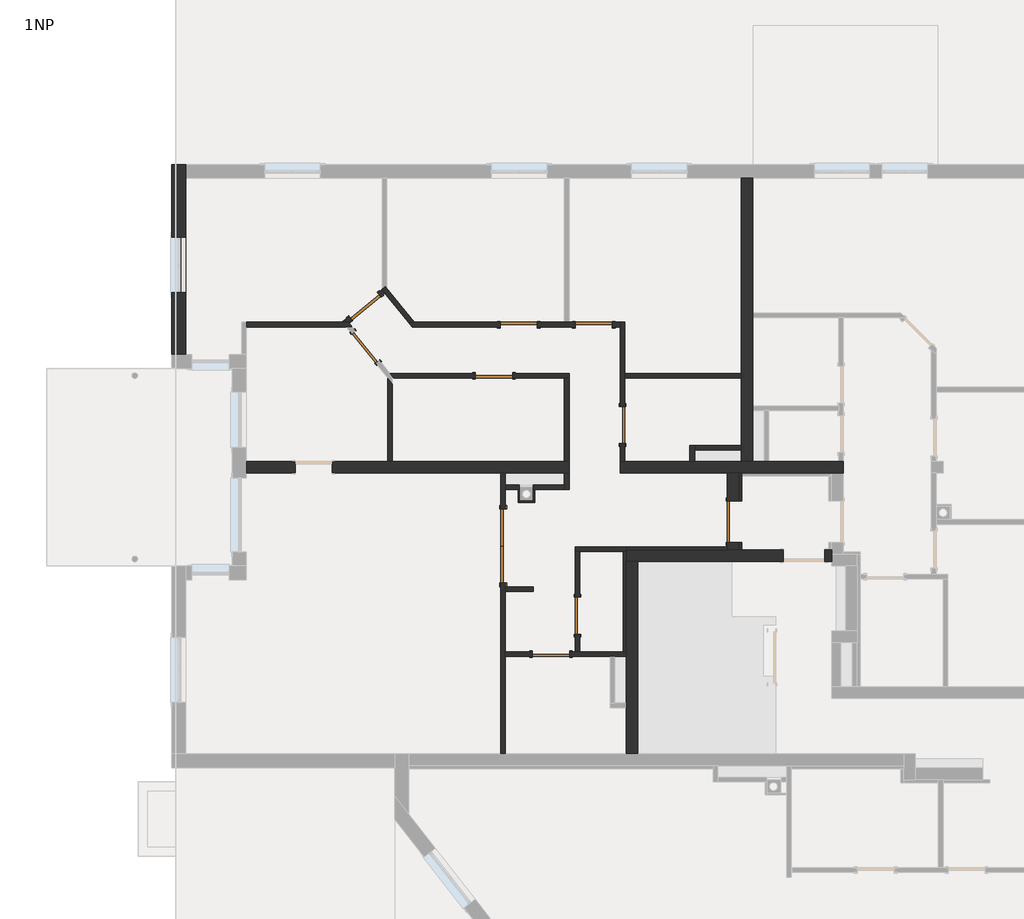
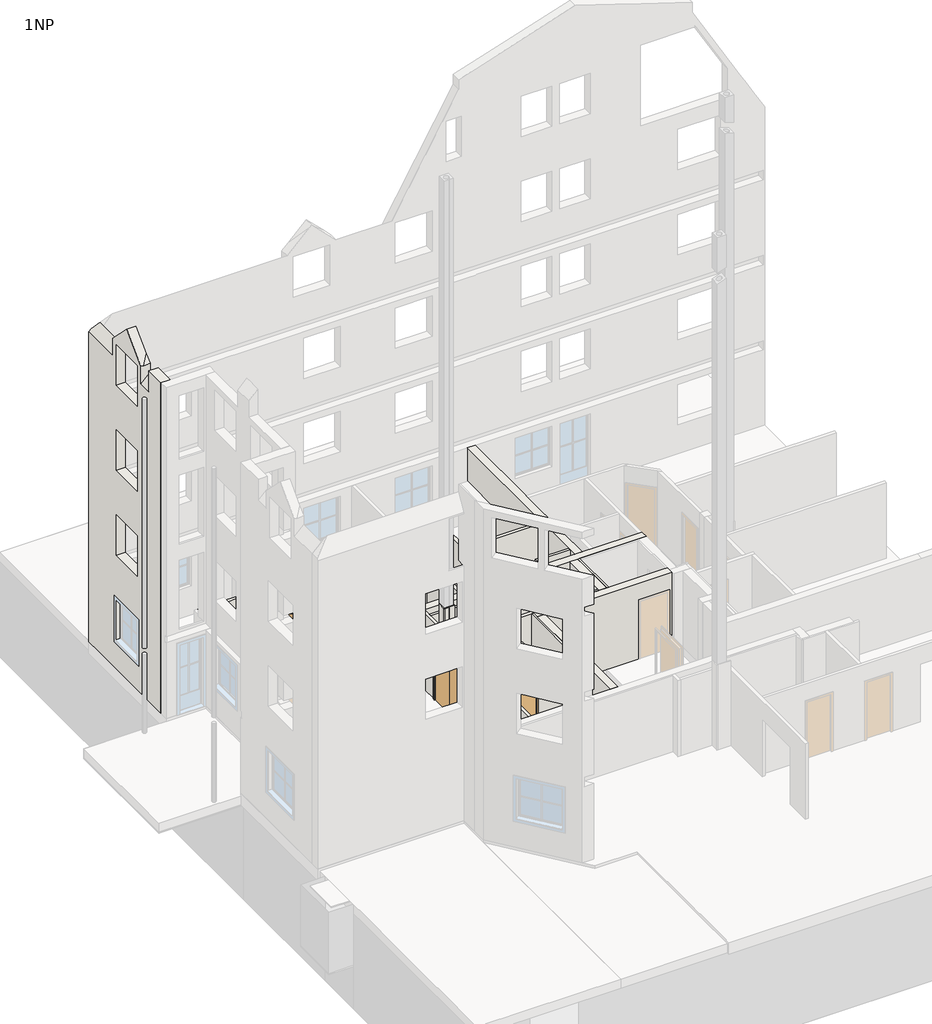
# One storey, part 4 of 7: 32 walls, 10 doors.
"""IFC4 building model written with IfcOpenShell, lengths in millimetres."""

import ifcopenshell
import ifcopenshell.guid

model = None  # the IFC model being written
_history = None  # IfcOwnerHistory: only IFC2X3 demands one
_inside = {}  # id of a spatial element -> (the spatial element, [elements in it])
_under = {}  # id of a project, library or spatial element -> (it, [spatial elements below it])
_declared = {}  # id of a project -> (the project, [libraries it declares])
_typed = {}  # id of a type object -> (the type object, [elements of that type])
_made_of = {}  # id of a material, layer set ... -> (it, [elements and type objects made of it])


def new_model(schema):
    """Start an empty IFC model of exactly this schema.

    Asked for "IFC4X3", IfcOpenShell would pick the latest addendum, in which some entities
    have other attributes; the version numbers below select the first issue.
    IFC2X3 requires an IfcOwnerHistory on every rooted entity: one is made here for all.
    """
    global model, _history
    if schema == "IFC4X3":
        model = ifcopenshell.file(schema_version=(4, 3, 0, 0))
    else:
        model = ifcopenshell.file(schema=schema)
    _inside.clear()
    _under.clear()
    _declared.clear()
    _typed.clear()
    _made_of.clear()
    _history = None
    if model.schema == "IFC2X3":
        org = make("IfcOrganization", Name="unknown")
        user = make(
            "IfcPersonAndOrganization",
            ThePerson=make("IfcPerson", FamilyName="unknown"),
            TheOrganization=org,
        )
        app = make(
            "IfcApplication",
            ApplicationDeveloper=org,
            Version="unknown",
            ApplicationFullName="unknown",
            ApplicationIdentifier="unknown",
        )
        _history = make(
            "IfcOwnerHistory",
            OwningUser=user,
            OwningApplication=app,
            ChangeAction="ADDED",
            CreationDate=0,
        )
    return model


def make(cls, **values):
    """One entity of the class cls with the attributes given. An attribute that is None is left unset."""
    return model.create_entity(
        cls, **{name: value for name, value in values.items() if value is not None}
    )


def rooted(cls, **values):
    """An entity with a GlobalId (a new one), such as an element, a storey or a relation."""
    return make(cls, GlobalId=ifcopenshell.guid.new(), OwnerHistory=_history, **values)


def si_unit(unit_type, name, prefix=None):
    """IfcSIUnit, for example si_unit("LENGTHUNIT", "METRE", prefix="MILLI")."""
    return make("IfcSIUnit", UnitType=unit_type, Prefix=prefix, Name=name)


def assignment(units):
    """IfcUnitAssignment: the units of a project."""
    return None if units is None else make("IfcUnitAssignment", Units=units)


def point(xyz):
    """IfcCartesianPoint."""
    return None if xyz is None else make("IfcCartesianPoint", Coordinates=xyz)


def direction(xyz):
    """IfcDirection."""
    return None if xyz is None else make("IfcDirection", DirectionRatios=xyz)


def frame(location, z_axis=None, x_axis=None):
    """IfcAxis2Placement3D, a coordinate frame: its origin and axes. An axis left out is left unset."""
    return make(
        "IfcAxis2Placement3D",
        Location=point(location),
        Axis=direction(z_axis),
        RefDirection=direction(x_axis),
    )


def origin():
    """The frame at (0, 0, 0) with its axes left unset."""
    return frame((0.0, 0.0, 0.0))


def origin_with_axes():
    """The frame at (0, 0, 0) with the z axis (0, 0, 1) and the x axis (1, 0, 0) written out."""
    return frame((0.0, 0.0, 0.0), z_axis=(0.0, 0.0, 1.0), x_axis=(1.0, 0.0, 0.0))


def place(relative_to, where):
    """IfcLocalPlacement: puts the frame where relative to a parent placement (None: the world)."""
    return make(
        "IfcLocalPlacement", PlacementRelTo=relative_to, RelativePlacement=where
    )


def context(
    kind, dimensions, precision=None, world=None, true_north=None, identifier=None
):
    """IfcGeometricRepresentationContext, for example the 3D "Model" context."""
    return make(
        "IfcGeometricRepresentationContext",
        ContextIdentifier=identifier,
        ContextType=kind,
        CoordinateSpaceDimension=dimensions,
        Precision=precision,
        WorldCoordinateSystem=world,
        TrueNorth=true_north,
    )


def project(units=None, contexts=None):
    """IfcProject with its units and contexts."""
    return rooted(
        "IfcProject",
        Name="project",
        RepresentationContexts=contexts,
        UnitsInContext=assignment(units),
    )


def spatial(cls, under=None, at=None, **own):
    """A site, building, storey or space (cls), placed at a placement, below another one or the project."""
    s = rooted(cls, ObjectPlacement=at, **own)
    if under is not None:
        _under.setdefault(under.id(), (under, []))[1].append(s)
    return s


def polyline(points):
    """IfcPolyline through the points."""
    return make("IfcPolyline", Points=[point(p) for p in points])


def outline(outer, holes=None, kind="AREA"):
    """IfcArbitraryClosedProfileDef: a profile drawn as a closed curve; with holes, ...WithVoids."""
    if holes is None:
        return make("IfcArbitraryClosedProfileDef", ProfileType=kind, OuterCurve=outer)
    return make(
        "IfcArbitraryProfileDefWithVoids",
        ProfileType=kind,
        OuterCurve=outer,
        InnerCurves=holes,
    )


def extrude(swept, where, along, depth):
    """IfcExtrudedAreaSolid: the profile swept, set in the frame where, extruded along a direction by depth."""
    return make(
        "IfcExtrudedAreaSolid",
        SweptArea=swept,
        Position=where,
        ExtrudedDirection=direction(along),
        Depth=depth,
    )


def faces_of(points, faces, orient=None, outer=None):
    """IfcFace entities. A face is a list of loops; a loop is a list of indices into points, from 0.

    orient and outer hold one flag for each loop. By default every Orientation is true, the
    first loop of a face is its IfcFaceOuterBound and the others are IfcFaceBound.
    """
    made = []
    for i, loops in enumerate(faces):
        bounds = []
        for j, loop in enumerate(loops):
            is_outer = j == 0 if outer is None else outer[i][j]
            bounds.append(
                make(
                    "IfcFaceOuterBound" if is_outer else "IfcFaceBound",
                    Bound=make("IfcPolyLoop", Polygon=[points[k] for k in loop]),
                    Orientation=True if orient is None else orient[i][j],
                )
            )
        made.append(make("IfcFace", Bounds=bounds))
    return made


def faceted_brep(points, faces, orient=None, outer=None, voids=None):
    """IfcFacetedBrep: a solid bounded by flat faces; with voids (closed shells), ...WithVoids."""
    shared = [point(p) for p in points]
    hull = make("IfcClosedShell", CfsFaces=faces_of(shared, faces, orient, outer))
    if voids is None:
        return make("IfcFacetedBrep", Outer=hull)
    return make(
        "IfcFacetedBrepWithVoids",
        Outer=hull,
        Voids=[
            make(cls, CfsFaces=faces_of(shared, fs, o, b)) for cls, fs, o, b in voids
        ],
    )


def shape(context_of_items, identifier, shape_type, items):
    """IfcShapeRepresentation: the items that make up one representation, for example the "Body"."""
    return make(
        "IfcShapeRepresentation",
        ContextOfItems=context_of_items,
        RepresentationIdentifier=identifier,
        RepresentationType=shape_type,
        Items=items,
    )


def source(mapping_origin, context_of_items, identifier, shape_type, items):
    """IfcRepresentationMap: a shape defined once, which mapped items show again and again."""
    return make(
        "IfcRepresentationMap",
        MappingOrigin=mapping_origin,
        MappedRepresentation=shape(context_of_items, identifier, shape_type, items),
    )


def transform(
    local_origin,
    x_axis=None,
    y_axis=None,
    z_axis=None,
    scale=None,
    scale2=None,
    scale3=None,
    uniform=True,
):
    """IfcCartesianTransformationOperator3D, or its non-uniform kind. x_axis, y_axis, z_axis: its Axis1, 2, 3."""
    if uniform:
        return make(
            "IfcCartesianTransformationOperator3D",
            Axis1=direction(x_axis),
            Axis2=direction(y_axis),
            LocalOrigin=point(local_origin),
            Scale=scale,
            Axis3=direction(z_axis),
        )
    return make(
        "IfcCartesianTransformationOperator3DnonUniform",
        Axis1=direction(x_axis),
        Axis2=direction(y_axis),
        LocalOrigin=point(local_origin),
        Scale=scale,
        Axis3=direction(z_axis),
        Scale2=scale2,
        Scale3=scale3,
    )


def mapped(mapping_source, mapping_target):
    """IfcMappedItem: shows the shape of a source again, moved by a transform."""
    return make(
        "IfcMappedItem", MappingSource=mapping_source, MappingTarget=mapping_target
    )


def made_of(thing, what):
    """Note that an element or type object is made of a material, layer set ...; save() writes the relation."""
    if what is not None:
        _made_of.setdefault(what.id(), (what, []))[1].append(thing)
    return thing


def element(
    cls,
    number,
    at=None,
    inside=None,
    cuts=None,
    type_object=None,
    material=None,
    context=None,
    identifier="Body",
    shape_type=None,
    held_by="IfcProductDefinitionShape",
    body=None,
    shapes=None,
    **own,
):
    """One element of the class cls, such as IfcWall. Its Tag is "e" and its number.

    at: its placement. inside: the storey or other place that contains it. cuts: it is an
    opening in that element (IfcRelVoidsElement). A single representation is given by context,
    identifier, shape_type and body (its items); several are given by shapes. held_by: the class
    of the entity that holds the representations. save() writes the other relations.
    """
    e = rooted(cls, Tag="e%d" % number, ObjectPlacement=at, **own)
    if body is not None:
        shapes = [shape(context, identifier, shape_type, body)]
    if shapes is not None:
        e.Representation = make(held_by, Representations=shapes)
    if inside is not None:
        _inside.setdefault(inside.id(), (inside, []))[1].append(e)
    if cuts is not None:
        rooted(
            "IfcRelVoidsElement", RelatingBuildingElement=cuts, RelatedOpeningElement=e
        )
    if type_object is not None:
        _typed.setdefault(type_object.id(), (type_object, []))[1].append(e)
    return made_of(e, material)


def aggregate(whole, parts):
    """IfcRelAggregates: a whole, such as a stair, and the parts it consists of."""
    return rooted("IfcRelAggregates", RelatingObject=whole, RelatedObjects=parts)


def save(model, path):
    """Write the relations noted so far, then the file.

    IfcRelAggregates (storeys below a building ...), IfcRelContainedInSpatialStructure (elements
    in a storey), IfcRelDefinesByType, IfcRelAssociatesMaterial and IfcRelDeclares: one each for
    every whole, place, type object, material and project.
    """
    for whole, parts in _under.values():
        aggregate(whole, parts)
    for where, things in _inside.values():
        rooted(
            "IfcRelContainedInSpatialStructure",
            RelatedElements=things,
            RelatingStructure=where,
        )
    for kind, things in _typed.values():
        rooted("IfcRelDefinesByType", RelatedObjects=things, RelatingType=kind)
    for what, things in _made_of.values():
        rooted("IfcRelAssociatesMaterial", RelatedObjects=things, RelatingMaterial=what)
    for by, libraries in _declared.values():
        rooted("IfcRelDeclares", RelatingContext=by, RelatedDefinitions=libraries)
    model.write(path)


def door_1600_x_2000mm_ba48827e(model_context):
    return source(origin(), model_context, "Body", "SweptSolid", [
        extrude(outline(polyline([(0.0, 50.0), (800.0, 50.0), (800.0, -1.0), (0.0, -1.0), (0.0, 50.0)])), origin_with_axes(), (0.0, 0.0, 1.0), 2000.0),
        extrude(outline(polyline([(-800.0, 50.0), (0.0, 50.0), (0.0, -1.0), (-800.0, -1.0), (-800.0, 50.0)])), origin_with_axes(), (0.0, 0.0, 1.0), 2000.0),
        extrude(outline(polyline([(2000.0, -800.0), (2000.0, 800.0), (0.0, 800.0), (0.0, 876.0), (2076.0, 876.0), (2076.0, -876.0), (0.0, -876.0), (0.0, -800.0), (2000.0, -800.0)])), frame((0.0, -75.0, 0.0), z_axis=(0.0, 1.0, 0.0), x_axis=(0.0, 0.0, 1.0)), (0.0, 0.0, 1.0), 25.0),
        extrude(outline(polyline([(2000.0, -800.0), (2000.0, 800.0), (0.0, 800.0), (0.0, 876.0), (2076.0, 876.0), (2076.0, -876.0), (0.0, -876.0), (0.0, -800.0), (2000.0, -800.0)])), frame((0.0, 50.0, 0.0), z_axis=(0.0, 1.0, 0.0), x_axis=(0.0, 0.0, 1.0)), (0.0, 0.0, 1.0), 25.0),
    ])


def sd_800x2000_6a16926d(model_context):
    return source(origin(), model_context, "Body", "SweptSolid", [
        extrude(outline(polyline([(2060.0, -460.0), (0.0, -460.0), (0.0, -400.0), (2000.0, -400.0), (2000.0, 400.0), (0.0, 400.0), (0.0, 460.0), (2060.0, 460.0), (2060.0, -460.0)])), frame((0.0, -70.0, 0.0), z_axis=(0.0, 1.0, 0.0), x_axis=(0.0, 0.0, 1.0)), (0.0, 0.0, 1.0), 20.0),
        extrude(outline(polyline([(2060.0, 460.0), (2060.0, -460.0), (0.0, -460.0), (0.0, -400.0), (2000.0, -400.0), (2000.0, 400.0), (0.0, 400.0), (0.0, 460.0), (2060.0, 460.0)])), frame((0.0, 50.0, 0.0), z_axis=(0.0, 1.0, 0.0), x_axis=(0.0, 0.0, 1.0)), (0.0, 0.0, 1.0), 20.0),
        extrude(outline(polyline([(400.0, 0.0), (400.0, -50.0), (-400.0, -50.0), (-400.0, 0.0), (400.0, 0.0)])), origin_with_axes(), (0.0, 0.0, 1.0), 2000.0),
    ])


def sd_800x2000_80f4ff25(model_context):
    return source(origin(), model_context, "Body", "SweptSolid", [
        extrude(outline(polyline([(2060.0, -460.0), (0.0, -460.0), (0.0, -400.0), (2000.0, -400.0), (2000.0, 400.0), (0.0, 400.0), (0.0, 460.0), (2060.0, 460.0), (2060.0, -460.0)])), frame((0.0, 50.0, 0.0), z_axis=(0.0, 1.0, 0.0), x_axis=(0.0, 0.0, 1.0)), (0.0, 0.0, 1.0), 20.0),
        extrude(outline(polyline([(2060.0, 460.0), (2060.0, -460.0), (0.0, -460.0), (0.0, -400.0), (2000.0, -400.0), (2000.0, 400.0), (0.0, 400.0), (0.0, 460.0), (2060.0, 460.0)])), frame((0.0, -70.0, 0.0), z_axis=(0.0, 1.0, 0.0), x_axis=(0.0, 0.0, 1.0)), (0.0, 0.0, 1.0), 20.0),
        extrude(outline(polyline([(400.0, 0.0), (-400.0, 0.0), (-400.0, 50.0), (400.0, 50.0), (400.0, 0.0)])), origin_with_axes(), (0.0, 0.0, 1.0), 2000.0),
    ])


def sd_900x2000_4224ae2a(model_context):
    return source(origin(), model_context, "Body", "SweptSolid", [
        extrude(outline(polyline([(2060.0, -510.0), (0.0, -510.0), (0.0, -450.0), (2000.0, -450.0), (2000.0, 450.0), (0.0, 450.0), (0.0, 510.0), (2060.0, 510.0), (2060.0, -510.0)])), frame((0.0, 125.0, 0.0), z_axis=(0.0, 1.0, 0.0), x_axis=(0.0, 0.0, 1.0)), (0.0, 0.0, 1.0), 20.0),
        extrude(outline(polyline([(2060.0, 510.0), (2060.0, -510.0), (0.0, -510.0), (0.0, -450.0), (2000.0, -450.0), (2000.0, 450.0), (0.0, 450.0), (0.0, 510.0), (2060.0, 510.0)])), frame((0.0, -145.0, 0.0), z_axis=(0.0, 1.0, 0.0), x_axis=(0.0, 0.0, 1.0)), (0.0, 0.0, 1.0), 20.0),
        extrude(outline(polyline([(450.0, 75.0), (-450.0, 75.0), (-450.0, 125.0), (450.0, 125.0), (450.0, 75.0)])), origin_with_axes(), (0.0, 0.0, 1.0), 2000.0),
    ])


model = new_model("IFC4")

# Units and contexts
model_context = context("Model", 3, world=origin())
ifc_project = project(units=[si_unit("LENGTHUNIT", "METRE", prefix="MILLI")], contexts=[model_context])

# Site, building, storey
site = spatial("IfcSite", under=ifc_project)
building = spatial("IfcBuilding", under=site)
storey = spatial("IfcBuildingStorey", under=building, Name="1NP", Elevation=0.0)

# Doors
placement = place(None, origin())
door_1600_x_2000mm_shape = door_1600_x_2000mm_ba48827e(model_context)
element("IfcDoor", 1, ObjectType="DvoukridleOtevirave : 1600 x 2000mm", at=placement, inside=storey, context=model_context, shape_type="MappedRepresentation", body=[
    mapped(door_1600_x_2000mm_shape, transform((-5507.1962165, 2648.5597712, 0.0), x_axis=(0.0, 1.0, 0.0), y_axis=(-1.0, 0.0, 0.0), z_axis=(0.0, 0.0, 1.0))),
])
sd_800x2000_shape = sd_800x2000_6a16926d(model_context)
element("IfcDoor", 2, ObjectType="JednokridlePlne : SD 800x2000", at=placement, inside=storey, context=model_context, shape_type="MappedRepresentation", body=[
    mapped(sd_800x2000_shape, transform((-5174.2767874, 7417.6290541, 0.0), x_axis=(-1.0, 0.0, 0.0), y_axis=(0.0, -1.0, 0.0), z_axis=(0.0, 0.0, 1.0))),
])
element("IfcDoor", 3, ObjectType="JednokridlePlne : SD 800x2000", at=placement, inside=storey, context=model_context, shape_type="MappedRepresentation", body=[
    mapped(sd_800x2000_shape, transform((-8469.5473453, 6934.8185333, 0.0), x_axis=(0.6321660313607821, -0.7748329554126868, 0.0), y_axis=(0.7748329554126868, 0.6321660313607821, 0.0), z_axis=(0.0, 0.0, 1.0))),
])
sd_800x2000_2_shape = sd_800x2000_80f4ff25(model_context)
element("IfcDoor", 4, ObjectType="JednokridlePlne : SD 800x2000", at=placement, inside=storey, context=model_context, shape_type="MappedRepresentation", body=[
    mapped(sd_800x2000_2_shape, transform((-3907.1962165, 1147.6290541, 0.0), x_axis=(0.0, 0.9999999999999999, 0.0), y_axis=(-0.9999999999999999, 0.0, 0.0), z_axis=(0.0, 0.0, 1.0))),
])
element("IfcDoor", 5, ObjectType="JednokridlePlne : SD 800x2000", at=placement, inside=storey, context=model_context, shape_type="MappedRepresentation", body=[
    mapped(sd_800x2000_2_shape, transform((-4475.9642739, 317.6290541, 0.0), x_axis=(-1.0, 0.0, 0.0), y_axis=(0.0, -1.0, 0.0), z_axis=(0.0, 0.0, 1.0))),
])
element("IfcDoor", 6, ObjectType="JednokridlePlne : SD 800x2000", at=placement, inside=storey, context=model_context, shape_type="MappedRepresentation", body=[
    mapped(sd_800x2000_2_shape, transform((-2937.1962165, 5253.568109, 0.0), x_axis=(0.0, -0.9999999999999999, 0.0), y_axis=(0.9999999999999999, 0.0, 0.0), z_axis=(0.0, 0.0, 1.0))),
])
element("IfcDoor", 7, ObjectType="JednokridlePlne : SD 800x2000", at=placement, inside=storey, context=model_context, shape_type="MappedRepresentation", body=[
    mapped(sd_800x2000_2_shape, transform((-3559.5684451, 7417.6290541, 0.0), x_axis=(1.0, 0.0, 0.0), y_axis=(0.0, 1.0, 0.0), z_axis=(0.0, 0.0, 1.0))),
])
element("IfcDoor", 8, ObjectType="JednokridlePlne : SD 800x2000", at=placement, inside=storey, context=model_context, shape_type="MappedRepresentation", body=[
    mapped(sd_800x2000_2_shape, transform((-8482.650289, 7809.8077825, 0.0), x_axis=(-0.7748329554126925, -0.6321660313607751, 0.0), y_axis=(0.6321660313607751, -0.7748329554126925, 0.0), z_axis=(0.0, 0.0, 1.0))),
])
element("IfcDoor", 9, ObjectType="JednokridlePlne : SD 800x2000", at=placement, inside=storey, context=model_context, shape_type="MappedRepresentation", body=[
    mapped(sd_800x2000_2_shape, transform((-5704.3517258, 6317.6290541, 0.0), x_axis=(-1.0, 0.0, 0.0), y_axis=(0.0, -1.0, 0.0), z_axis=(0.0, 0.0, 1.0))),
])
sd_900x2000_shape = sd_900x2000_4224ae2a(model_context)
element("IfcDoor", 10, ObjectType="JednokridlePlne : SD 900x2000", at=placement, inside=storey, context=model_context, shape_type="MappedRepresentation", body=[
    mapped(sd_900x2000_shape, transform((-562.1962165, 3171.1987133, 0.0), x_axis=(0.0, 1.0, 0.0), y_axis=(-1.0, 0.0, 0.0), z_axis=(0.0, 0.0, 1.0))),
])

# Walls
element("IfcWall", 11, ObjectType="Exterior - 250+50mm", at=placement, inside=storey, context=model_context, shape_type="Brep", body=[
    faceted_brep([(-12337.1962165, 6767.6290541, 0.0), (-12337.1962165, 10567.6290541, 0.0), (-12337.1962165, 10867.6290541, 0.0), (-12337.1962165, 10867.6290541, 10831.9372055), (-12337.1962165, 10741.730441, 11050.0), (-12337.1962165, 10567.6290541, 11050.0), (-12337.1962165, 9505.3927399, 11050.0), (-12337.1962165, 9505.3927399, 11350.0), (-12337.1962165, 9296.2758574, 11559.1168825), (-12337.1962165, 8705.3927399, 12150.0), (-12337.1962165, 8114.5096223, 11559.1168825), (-12337.1962165, 7905.3927399, 11350.0), (-12337.1962165, 7905.3927399, 11050.0), (-12337.1962165, 7447.6290541, 11050.0), (-12337.1962165, 7447.6290541, 11480.0), (-12337.1962165, 6767.6290541, 11480.0), (-12337.1962165, 6767.6290541, 8850.0), (-12337.1962165, 10567.6290541, 8850.0), (-12337.1962165, 10817.6290541, 8850.0), (-12337.1962165, 10817.6290541, 8530.0), (-12337.1962165, 10567.6290541, 8530.0), (-12337.1962165, 6767.6290541, 8530.0), (-12337.1962165, 6767.6290541, 5900.0), (-12337.1962165, 10567.6290541, 5900.0), (-12337.1962165, 10817.6290541, 5900.0), (-12337.1962165, 10817.6290541, 5580.0), (-12337.1962165, 10567.6290541, 5580.0), (-12337.1962165, 6767.6290541, 5580.0), (-12337.1962165, 6767.6290541, 2950.0), (-12337.1962165, 10567.6290541, 2950.0), (-12337.1962165, 10817.6290541, 2950.0), (-12337.1962165, 10817.6290541, 2630.0), (-12337.1962165, 10567.6290541, 2630.0), (-12337.1962165, 6767.6290541, 2630.0), (-12337.1962165, 8105.3927399, 1000.0), (-12337.1962165, 8105.3927399, 2400.0), (-12337.1962165, 9305.3927399, 2400.0), (-12337.1962165, 9305.3927399, 1000.0), (-12337.1962165, 8105.3927399, 3950.0), (-12337.1962165, 8105.3927399, 5350.0), (-12337.1962165, 9305.3927399, 5350.0), (-12337.1962165, 9305.3927399, 3950.0), (-12337.1962165, 8105.3927399, 6900.0), (-12337.1962165, 8105.3927399, 8300.0), (-12337.1962165, 9305.3927399, 8300.0), (-12337.1962165, 9305.3927399, 6900.0), (-12337.1962165, 8105.3927399, 9850.0), (-12337.1962165, 8105.3927399, 11250.0), (-12337.1962165, 9305.3927399, 11250.0), (-12337.1962165, 9305.3927399, 9850.0), (-12637.1962165, 10867.6290541, 0.0), (-12637.1962165, 6767.6290541, 0.0), (-12637.1962165, 6767.6290541, 11480.0), (-12637.1962165, 7447.6290541, 11480.0), (-12637.1962165, 7447.6290541, 10750.0), (-12637.1962165, 7905.3927399, 10750.0), (-12637.1962165, 7905.3927399, 11350.0), (-12637.1962165, 8705.3927399, 12150.0), (-12637.1962165, 9505.3927399, 11350.0), (-12637.1962165, 9505.3927399, 10750.0), (-12637.1962165, 10867.6290541, 10750.0), (-12637.1962165, 8105.3927399, 2400.0), (-12637.1962165, 8105.3927399, 1000.0), (-12637.1962165, 9305.3927399, 1000.0), (-12637.1962165, 9305.3927399, 2400.0), (-12637.1962165, 8105.3927399, 5350.0), (-12637.1962165, 8105.3927399, 3950.0), (-12637.1962165, 9305.3927399, 3950.0), (-12637.1962165, 9305.3927399, 5350.0), (-12637.1962165, 8105.3927399, 8300.0), (-12637.1962165, 8105.3927399, 6900.0), (-12637.1962165, 9305.3927399, 6900.0), (-12637.1962165, 9305.3927399, 8300.0), (-12637.1962165, 8105.3927399, 11250.0), (-12637.1962165, 8105.3927399, 9850.0), (-12637.1962165, 9305.3927399, 9850.0), (-12637.1962165, 9305.3927399, 11250.0), (-12555.2590111, 10867.6290541, 10831.9372055), (-12587.1962165, 6767.6290541, 2630.0), (-12587.1962165, 6767.6290541, 2950.0), (-12587.1962165, 6767.6290541, 5580.0), (-12587.1962165, 6767.6290541, 5900.0), (-12587.1962165, 6767.6290541, 8530.0), (-12587.1962165, 6767.6290541, 8850.0), (-12546.313099, 7905.3927399, 11350.0), (-12546.313099, 9505.3927399, 11350.0), (-12587.1962165, 10817.6290541, 2630.0), (-12587.1962165, 10817.6290541, 2950.0), (-12587.1962165, 10817.6290541, 5580.0), (-12587.1962165, 10817.6290541, 5900.0), (-12587.1962165, 10817.6290541, 8530.0), (-12587.1962165, 10817.6290541, 8850.0)], [[[0, 1, 2, 3, 4, 5, 6, 7, 8, 9, 10, 11, 12, 13, 14, 15, 16, 17, 18, 19, 20, 21, 22, 23, 24, 25, 26, 27, 28, 29, 30, 31, 32, 33], [34, 35, 36, 37], [38, 39, 40, 41], [42, 43, 44, 45], [46, 47, 48, 49]], [[50, 51, 52, 53, 54, 55, 56, 57, 58, 59, 60], [61, 62, 63, 64], [65, 66, 67, 68], [69, 70, 71, 72], [73, 74, 75, 76]], [[2, 1, 0, 51, 50]], [[3, 2, 50, 60, 77]], [[52, 51, 0, 33, 78, 79, 28, 27, 80, 81, 22, 21, 82, 83, 16, 15]], [[56, 55, 12, 11, 84]], [[7, 6, 59, 58, 85]], [[54, 53, 14, 13]], [[8, 7, 85]], [[11, 10, 84]], [[60, 59, 6, 5, 4, 77]], [[4, 3, 77]], [[54, 13, 12, 55]], [[56, 84, 10, 9, 57]], [[85, 58, 57, 9, 8]], [[15, 14, 53, 52]], [[35, 34, 62, 61]], [[36, 35, 61, 64]], [[37, 36, 64, 63]], [[34, 37, 63, 62]], [[39, 38, 66, 65]], [[40, 39, 65, 68]], [[41, 40, 68, 67]], [[38, 41, 67, 66]], [[43, 42, 70, 69]], [[44, 43, 69, 72]], [[45, 44, 72, 71]], [[42, 45, 71, 70]], [[46, 74, 73, 47]], [[47, 73, 76, 48]], [[48, 76, 75, 49]], [[74, 46, 49, 75]], [[31, 86, 78, 33, 32]], [[79, 87, 30, 29, 28]], [[86, 87, 79, 78]], [[87, 86, 31, 30]], [[25, 88, 80, 27, 26]], [[81, 89, 24, 23, 22]], [[88, 89, 81, 80]], [[89, 88, 25, 24]], [[19, 90, 82, 21, 20]], [[83, 91, 18, 17, 16]], [[90, 91, 83, 82]], [[91, 90, 19, 18]]]),
])
element("IfcWall", 12, ObjectType="Interior - 100mm", at=placement, inside=storey, context=model_context, shape_type="Brep", body=[
    faceted_brep([(-11037.1962165, 7367.6290541, 0.0), (-8887.1962165, 7367.6290541, 0.0), (-8758.1361407, 7367.6290541, 0.0), (-8758.1361407, 7367.6290541, 2630.0), (-8887.1962165, 7367.6290541, 2630.0), (-11037.1962165, 7367.6290541, 2630.0), (-11037.1962165, 7467.6290541, 0.0), (-11037.1962165, 7467.6290541, 2630.0), (-8981.1448929, 7467.6290541, 2630.0), (-8839.7235366, 7467.6290541, 2630.0), (-8839.7235366, 7467.6290541, 0.0), (-8981.1448929, 7467.6290541, 0.0)], [[[0, 1, 2, 3, 4, 5]], [[6, 7, 8, 9, 10, 11]], [[2, 1, 0, 6, 11, 10]], [[3, 2, 10, 9]], [[0, 5, 7, 6]], [[5, 4, 3, 9, 8, 7]]]),
])
element("IfcWall", 13, ObjectType="Interior - 100mm", at=placement, inside=storey, context=model_context, shape_type="SweptSolid", body=[
    extrude(outline(polyline([(-7989.734861, 4467.6290541), (-7989.734861, 6267.6290541), (-7889.734861, 6145.0611025), (-7889.734861, 4467.6290541), (-7989.734861, 4467.6290541)])), origin_with_axes(), (0.0, 0.0, 1.0), 2630.0),
])
element("IfcWall", 14, ObjectType="Interior - 100mm", at=placement, inside=storey, context=model_context, shape_type="Brep", body=[
    faceted_brep([(-7860.6747851, 6267.6290541, 0.0), (-6104.3517258, 6267.6290541, 0.0), (-6104.3517258, 6267.6290541, 2000.0), (-5304.3517258, 6267.6290541, 2000.0), (-5304.3517258, 6267.6290541, 0.0), (-4187.1962165, 6267.6290541, 0.0), (-4087.1962165, 6267.6290541, 0.0), (-4087.1962165, 6267.6290541, 2630.0), (-4187.1962165, 6267.6290541, 2630.0), (-7860.6747851, 6267.6290541, 2630.0), (-6104.3517258, 6367.6290541, 2000.0), (-6104.3517258, 6367.6290541, 0.0), (-7942.2621811, 6367.6290541, 0.0), (-7942.2621811, 6367.6290541, 2630.0), (-4087.1962165, 6367.6290541, 2630.0), (-4087.1962165, 6367.6290541, 0.0), (-5304.3517258, 6367.6290541, 0.0), (-5304.3517258, 6367.6290541, 2000.0), (-7889.734861, 6303.2473938, 0.0), (-7889.734861, 6303.2473938, 2630.0)], [[[0, 1, 2, 3, 4, 5, 6, 7, 8, 9]], [[10, 11, 12, 13, 14, 15, 16, 17]], [[12, 11, 1, 0, 18]], [[16, 15, 6, 5, 4]], [[7, 6, 15, 14]], [[0, 9, 19, 13, 12, 18]], [[9, 8, 7, 14, 13, 19]], [[2, 1, 11, 10]], [[3, 2, 10, 17]], [[4, 3, 17, 16]]]),
])
element("IfcWall", 15, ObjectType="Interior - 100mm", at=placement, inside=storey, context=model_context, shape_type="SweptSolid", body=[
    extrude(outline(polyline([(-4187.1962165, 4467.6290541), (-4187.1962165, 6267.6290541), (-4087.1962165, 6267.6290541), (-4087.1962165, 4467.6290541), (-4187.1962165, 4467.6290541)])), origin_with_axes(), (0.0, 0.0, 1.0), 2630.0),
])
element("IfcWall", 16, ObjectType="Interior - 100mm", at=placement, inside=storey, context=model_context, shape_type="Brep", body=[
    faceted_brep([(-2887.1962165, 4467.6290541, 0.0), (-2887.1962165, 4853.568109, 0.0), (-2887.1962165, 4853.568109, 2000.0), (-2887.1962165, 5653.568109, 2000.0), (-2887.1962165, 5653.568109, 0.0), (-2887.1962165, 6267.6290541, 0.0), (-2887.1962165, 6367.6290541, 0.0), (-2887.1962165, 7467.6290541, 0.0), (-2887.1962165, 7467.6290541, 2630.0), (-2887.1962165, 6367.6290541, 2630.0), (-2887.1962165, 6267.6290541, 2630.0), (-2887.1962165, 4467.6290541, 2630.0), (-2987.1962165, 4853.568109, 2000.0), (-2987.1962165, 4853.568109, 0.0), (-2987.1962165, 4467.6290541, 0.0), (-2987.1962165, 4467.6290541, 2630.0), (-2987.1962165, 7367.6290541, 2630.0), (-2987.1962165, 7467.6290541, 2630.0), (-2987.1962165, 7467.6290541, 0.0), (-2987.1962165, 7367.6290541, 0.0), (-2987.1962165, 5653.568109, 0.0), (-2987.1962165, 5653.568109, 2000.0)], [[[0, 1, 2, 3, 4, 5, 6, 7, 8, 9, 10, 11]], [[12, 13, 14, 15, 16, 17, 18, 19, 20, 21]], [[14, 13, 1, 0]], [[20, 19, 18, 7, 6, 5, 4]], [[8, 7, 18, 17]], [[0, 11, 15, 14]], [[11, 10, 9, 8, 17, 16, 15]], [[2, 1, 13, 12]], [[3, 2, 12, 21]], [[4, 3, 21, 20]]]),
])
element("IfcWall", 17, ObjectType="Interior - 100mm", at=placement, inside=storey, context=model_context, shape_type="Brep", body=[
    faceted_brep([(-5574.2767874, 7467.6290541, 2000.0), (-5574.2767874, 7467.6290541, 0.0), (-7420.0627022, 7467.6290541, 0.0), (-7549.1227781, 7467.6290541, 0.0), (-7549.1227781, 7467.6290541, 2630.0), (-7420.0627022, 7467.6290541, 2630.0), (-4187.1962165, 7467.6290541, 2630.0), (-4087.1962165, 7467.6290541, 2630.0), (-2987.1962165, 7467.6290541, 2630.0), (-2987.1962165, 7467.6290541, 0.0), (-3159.5684451, 7467.6290541, 0.0), (-3159.5684451, 7467.6290541, 2000.0), (-3959.5684451, 7467.6290541, 2000.0), (-3959.5684451, 7467.6290541, 0.0), (-4087.1962165, 7467.6290541, 0.0), (-4187.1962165, 7467.6290541, 0.0), (-4774.2767874, 7467.6290541, 0.0), (-4774.2767874, 7467.6290541, 2000.0), (-7467.5353821, 7367.6290541, 0.0), (-5574.2767874, 7367.6290541, 0.0), (-5574.2767874, 7367.6290541, 2000.0), (-4774.2767874, 7367.6290541, 2000.0), (-4774.2767874, 7367.6290541, 0.0), (-3959.5684451, 7367.6290541, 0.0), (-3959.5684451, 7367.6290541, 2000.0), (-3159.5684451, 7367.6290541, 2000.0), (-3159.5684451, 7367.6290541, 0.0), (-2987.1962165, 7367.6290541, 0.0), (-2987.1962165, 7367.6290541, 2630.0), (-7467.5353821, 7367.6290541, 2630.0)], [[[0, 1, 2, 3, 4, 5, 6, 7, 8, 9, 10, 11, 12, 13, 14, 15, 16, 17]], [[18, 19, 20, 21, 22, 23, 24, 25, 26, 27, 28, 29]], [[27, 26, 10, 9]], [[3, 2, 1, 19, 18]], [[16, 15, 14, 13, 23, 22]], [[4, 3, 18, 29]], [[9, 8, 28, 27]], [[8, 7, 6, 5, 4, 29, 28]], [[11, 10, 26, 25]], [[12, 11, 25, 24]], [[13, 12, 24, 23]], [[20, 19, 1, 0]], [[21, 20, 0, 17]], [[22, 21, 17, 16]]]),
])
element("IfcWall", 18, ObjectType="Interior - 100mm", at=placement, inside=storey, context=model_context, shape_type="Brep", body=[
    faceted_brep([(-7420.0627022, 7467.6290541, 0.0), (-8012.6840058, 8193.9928466, 0.0), (-8043.9240526, 8232.2831321, 0.0), (-8043.9240526, 8232.2831321, 2630.0), (-8012.6840058, 8193.9928466, 2630.0), (-7420.0627022, 7467.6290541, 2630.0), (-7549.1227781, 7467.6290541, 0.0), (-7549.1227781, 7467.6290541, 2630.0), (-8058.190745, 8091.5832334, 2630.0), (-8121.4073481, 8169.0665289, 2630.0), (-8121.4073481, 8169.0665289, 0.0), (-8058.190745, 8091.5832334, 0.0), (-8112.6840058, 8176.1836768, 0.0), (-8112.6840058, 8176.1836768, 2630.0)], [[[0, 1, 2, 3, 4, 5]], [[6, 7, 8, 9, 10, 11]], [[2, 1, 0, 6, 11, 10, 12]], [[3, 2, 12, 10, 9, 13]], [[0, 5, 7, 6]], [[5, 4, 3, 13, 9, 8, 7]]]),
])
element("IfcWall", 19, ObjectType="Interior - 100mm", at=placement, inside=storey, context=model_context, shape_type="Brep", body=[
    faceted_brep([(-8822.9586016, 7467.6290541, 0.0), (-8760.9751696, 7518.1997222, 0.0), (-8760.9751696, 7518.1997222, 2000.0), (-8141.1088052, 8023.9325473, 2000.0), (-8141.1088052, 8023.9325473, 0.0), (-8058.190745, 8091.5832334, 0.0), (-8058.190745, 8091.5832334, 2630.0), (-8822.9586016, 7467.6290541, 2630.0), (-8824.1917727, 7595.6830177, 2000.0), (-8824.1917727, 7595.6830177, 0.0), (-8981.1448929, 7467.6290541, 0.0), (-8981.1448929, 7467.6290541, 2630.0), (-8121.4073481, 8169.0665289, 2630.0), (-8121.4073481, 8169.0665289, 0.0), (-8204.3254084, 8101.4158428, 0.0), (-8204.3254084, 8101.4158428, 2000.0), (-8839.7235366, 7467.6290541, 0.0), (-8839.7235366, 7467.6290541, 2630.0)], [[[0, 1, 2, 3, 4, 5, 6, 7]], [[8, 9, 10, 11, 12, 13, 14, 15]], [[10, 9, 1, 0, 16]], [[14, 13, 5, 4]], [[0, 7, 17, 11, 10, 16]], [[6, 5, 13, 12]], [[7, 6, 12, 11, 17]], [[2, 1, 9, 8]], [[3, 2, 8, 15]], [[4, 3, 15, 14]]]),
])
element("IfcWall", 20, ObjectType="Interior - 100mm", at=placement, inside=storey, context=model_context, shape_type="SweptSolid", body=[
    extrude(outline(polyline([(-387.1962165, 6267.6290541), (-2887.1962165, 6267.6290541), (-2887.1962165, 6367.6290541), (-387.1962165, 6367.6290541), (-387.1962165, 6267.6290541)])), origin_with_axes(), (0.0, 0.0, 1.0), 2630.0),
])
element("IfcWall", 21, ObjectType="Interior - 100mm", at=placement, inside=storey, context=model_context, shape_type="Brep", body=[
    faceted_brep([(-1387.1962165, 4467.6290541, 0.0), (-1387.1962165, 4717.6290541, 0.0), (-1387.1962165, 4817.6290541, 0.0), (-1387.1962165, 4817.6290541, 2630.0), (-1387.1962165, 4717.6290541, 2630.0), (-1387.1962165, 4467.6290541, 2630.0), (-1487.1962165, 4467.6290541, 0.0), (-1487.1962165, 4467.6290541, 2630.0), (-1487.1962165, 4817.6290541, 2630.0), (-1487.1962165, 4817.6290541, 0.0)], [[[0, 1, 2, 3, 4, 5]], [[6, 7, 8, 9]], [[2, 1, 0, 6, 9]], [[3, 2, 9, 8]], [[0, 5, 7, 6]], [[5, 4, 3, 8, 7]]]),
])
element("IfcWall", 22, ObjectType="Interior - 100mm", at=placement, inside=storey, context=model_context, shape_type="Brep", body=[
    faceted_brep([(-1387.1962165, 4717.6290541, 0.0), (-387.1962165, 4717.6290541, 0.0), (-387.1962165, 4717.6290541, 2630.0), (-1287.1962165, 4717.6290541, 2630.0), (-1387.1962165, 4717.6290541, 2630.0), (-1387.1962165, 4817.6290541, 0.0), (-1387.1962165, 4817.6290541, 2630.0), (-387.1962165, 4817.6290541, 2630.0), (-387.1962165, 4817.6290541, 0.0)], [[[0, 1, 2, 3, 4]], [[5, 6, 7, 8]], [[1, 0, 5, 8]], [[0, 4, 6, 5]], [[2, 1, 8, 7]], [[4, 3, 2, 7, 6]]]),
])
element("IfcWall", 23, ObjectType="Interior - 100mm", at=placement, inside=storey, context=model_context, shape_type="Brep", body=[
    faceted_brep([(-4187.1962165, 3967.6290541, 0.0), (-4857.1962165, 3967.6290541, 0.0), (-4857.1962165, 3967.6290541, 2630.0), (-4357.1962165, 3967.6290541, 2630.0), (-4187.1962165, 3967.6290541, 2630.0), (-4187.1962165, 3867.6290541, 0.0), (-4187.1962165, 3867.6290541, 2630.0), (-4857.1962165, 3867.6290541, 2630.0), (-4857.1962165, 3867.6290541, 0.0), (-4827.1962165, 3867.6290541, 0.0), (-4857.1962165, 3917.6290541, 0.0)], [[[0, 1, 2, 3, 4]], [[5, 6, 7, 8, 9]], [[1, 0, 5, 9, 8, 10]], [[2, 1, 10, 8, 7]], [[0, 4, 6, 5]], [[4, 3, 2, 7, 6]]]),
])
element("IfcWall", 24, ObjectType="Interior - 100mm", at=placement, inside=storey, context=model_context, shape_type="Brep", body=[
    faceted_brep([(-5157.1962165, 3967.6290541, 0.0), (-5457.1962165, 3967.6290541, 0.0), (-5457.1962165, 3967.6290541, 2630.0), (-5157.1962165, 3967.6290541, 2630.0), (-5157.1962165, 3867.6290541, 0.0), (-5157.1962165, 3867.6290541, 2630.0), (-5457.1962165, 3867.6290541, 2630.0), (-5457.1962165, 3867.6290541, 0.0), (-5187.1962165, 3867.6290541, 0.0), (-5157.1962165, 3917.6290541, 0.0)], [[[0, 1, 2, 3]], [[4, 5, 6, 7, 8]], [[1, 0, 9, 4, 8, 7]], [[0, 3, 5, 4, 9]], [[2, 1, 7, 6]], [[3, 2, 6, 5]]]),
])
element("IfcWall", 25, ObjectType="Interior - 100mm", at=placement, inside=storey, context=model_context, shape_type="Brep", body=[
    faceted_brep([(-5557.1962165, 4217.6290541, 0.0), (-5557.1962165, 3448.5597712, 0.0), (-5557.1962165, 3448.5597712, 2000.0), (-5557.1962165, 1848.5597712, 2000.0), (-5557.1962165, 1848.5597712, 0.0), (-5557.1962165, -1832.3709459, 0.0), (-5557.1962165, -1832.3709459, 2630.0), (-5557.1962165, 4217.6290541, 2630.0), (-5457.1962165, 3448.5597712, 2000.0), (-5457.1962165, 3448.5597712, 0.0), (-5457.1962165, 3867.6290541, 0.0), (-5457.1962165, 3967.6290541, 0.0), (-5457.1962165, 4217.6290541, 0.0), (-5457.1962165, 4217.6290541, 2630.0), (-5457.1962165, 3967.6290541, 2630.0), (-5457.1962165, 3867.6290541, 2630.0), (-5457.1962165, 1767.6290541, 2630.0), (-5457.1962165, 1667.6290541, 2630.0), (-5457.1962165, 367.6290541, 2630.0), (-5457.1962165, 267.6290541, 2630.0), (-5457.1962165, -1832.3709459, 2630.0), (-5457.1962165, -1832.3709459, 0.0), (-5457.1962165, 267.6290541, 0.0), (-5457.1962165, 367.6290541, 0.0), (-5457.1962165, 1667.6290541, 0.0), (-5457.1962165, 1767.6290541, 0.0), (-5457.1962165, 1848.5597712, 0.0), (-5457.1962165, 1848.5597712, 2000.0)], [[[0, 1, 2, 3, 4, 5, 6, 7]], [[8, 9, 10, 11, 12, 13, 14, 15, 16, 17, 18, 19, 20, 21, 22, 23, 24, 25, 26, 27]], [[12, 11, 10, 9, 1, 0]], [[26, 25, 24, 23, 22, 21, 5, 4]], [[0, 7, 13, 12]], [[6, 5, 21, 20]], [[7, 6, 20, 19, 18, 17, 16, 15, 14, 13]], [[2, 1, 9, 8]], [[3, 2, 8, 27]], [[4, 3, 27, 26]]]),
])
element("IfcWall", 26, ObjectType="Interior - 100mm", at=placement, inside=storey, context=model_context, shape_type="Brep", body=[
    faceted_brep([(-5457.1962165, 267.6290541, 0.0), (-4875.9642739, 267.6290541, 0.0), (-4875.9642739, 267.6290541, 2000.0), (-4075.9642739, 267.6290541, 2000.0), (-4075.9642739, 267.6290541, 0.0), (-3207.1962165, 267.6290541, 0.0), (-3107.1962165, 267.6290541, 0.0), (-2857.1962165, 267.6290541, 0.0), (-2857.1962165, 267.6290541, 2630.0), (-3107.1962165, 267.6290541, 2630.0), (-3207.1962165, 267.6290541, 2630.0), (-5457.1962165, 267.6290541, 2630.0), (-4875.9642739, 367.6290541, 2000.0), (-4875.9642739, 367.6290541, 0.0), (-5457.1962165, 367.6290541, 0.0), (-5457.1962165, 367.6290541, 2630.0), (-3957.1962165, 367.6290541, 2630.0), (-3857.1962165, 367.6290541, 2630.0), (-2922.1962165, 367.6290541, 2630.0), (-2857.1962165, 367.6290541, 2630.0), (-2857.1962165, 367.6290541, 0.0), (-2922.1962165, 367.6290541, 0.0), (-3857.1962165, 367.6290541, 0.0), (-3957.1962165, 367.6290541, 0.0), (-4075.9642739, 367.6290541, 0.0), (-4075.9642739, 367.6290541, 2000.0)], [[[0, 1, 2, 3, 4, 5, 6, 7, 8, 9, 10, 11]], [[12, 13, 14, 15, 16, 17, 18, 19, 20, 21, 22, 23, 24, 25]], [[14, 13, 1, 0]], [[24, 23, 22, 21, 20, 7, 6, 5, 4]], [[8, 7, 20, 19]], [[0, 11, 15, 14]], [[11, 10, 9, 8, 19, 18, 17, 16, 15]], [[2, 1, 13, 12]], [[3, 2, 12, 25]], [[4, 3, 25, 24]]]),
])
element("IfcWall", 27, ObjectType="Interior - 100mm", at=placement, inside=storey, context=model_context, shape_type="Brep", body=[
    faceted_brep([(-4187.1962165, 4217.6290541, 0.0), (-4187.1962165, 3967.6290541, 0.0), (-4187.1962165, 3867.6290541, 0.0), (-4187.1962165, 3867.6290541, 2630.0), (-4187.1962165, 3967.6290541, 2630.0), (-4187.1962165, 4217.6290541, 2630.0), (-4087.1962165, 4217.6290541, 0.0), (-4087.1962165, 4217.6290541, 2630.0), (-4087.1962165, 3867.6290541, 2630.0), (-4087.1962165, 3867.6290541, 0.0)], [[[0, 1, 2, 3, 4, 5]], [[6, 7, 8, 9]], [[2, 1, 0, 6, 9]], [[3, 2, 9, 8]], [[0, 5, 7, 6]], [[5, 4, 3, 8, 7]]]),
])
element("IfcWall", 28, ObjectType="Interior - 100mm", at=placement, inside=storey, context=model_context, shape_type="Brep", body=[
    faceted_brep([(-2857.1962165, 2632.6290541, 0.0), (-3957.1962165, 2632.6290541, 0.0), (-3957.1962165, 2632.6290541, 2630.0), (-2857.1962165, 2632.6290541, 2630.0), (-2857.1962165, 2532.6290541, 0.0), (-2857.1962165, 2532.6290541, 2630.0), (-2922.1962165, 2532.6290541, 2630.0), (-3857.1962165, 2532.6290541, 2630.0), (-3957.1962165, 2532.6290541, 2630.0), (-3957.1962165, 2532.6290541, 0.0), (-3857.1962165, 2532.6290541, 0.0), (-2922.1962165, 2532.6290541, 0.0), (-2857.1962165, 2567.6290541, 0.0), (-2857.1962165, 2567.6290541, 2630.0)], [[[0, 1, 2, 3]], [[4, 5, 6, 7, 8, 9, 10, 11]], [[1, 0, 12, 4, 11, 10, 9]], [[2, 1, 9, 8]], [[0, 3, 13, 5, 4, 12]], [[3, 2, 8, 7, 6, 5, 13]]]),
])
element("IfcWall", 29, ObjectType="Interior - 100mm", at=placement, inside=storey, context=model_context, shape_type="SweptSolid", body=[
    extrude(outline(polyline([(2532.6290541, 0.0), (1547.6290541, 0.0), (1547.6290541, 2000.0), (747.6290541, 2000.0), (747.6290541, 0.0), (367.6290541, 0.0), (367.6290541, 2630.0), (2532.6290541, 2630.0), (2532.6290541, 0.0)])), frame((-3957.1962165, 0.0, 0.0), z_axis=(1.0, 0.0, 0.0), x_axis=(0.0, 1.0, 0.0)), (0.0, 0.0, 1.0), 100.0),
])
element("IfcWall", 30, ObjectType="Interior - 100mm", at=placement, inside=storey, context=model_context, shape_type="SweptSolid", body=[
    extrude(outline(polyline([(-4857.1962165, 1667.6290541), (-5457.1962165, 1667.6290541), (-5457.1962165, 1767.6290541), (-4857.1962165, 1767.6290541), (-4857.1962165, 1667.6290541)])), origin_with_axes(), (0.0, 0.0, 1.0), 2630.0),
])
element("IfcWall", 31, ObjectType="Interior - 250mm", at=placement, inside=storey, context=model_context, shape_type="Brep", body=[
    faceted_brep([(-11037.1962165, 4217.6290541, 0.0), (-9988.4360939, 4217.6290541, 0.0), (-9988.4360939, 4217.6290541, 2000.0), (-9188.4360939, 4217.6290541, 2000.0), (-9188.4360939, 4217.6290541, 0.0), (-5557.1962165, 4217.6290541, 0.0), (-5457.1962165, 4217.6290541, 0.0), (-4187.1962165, 4217.6290541, 0.0), (-4087.1962165, 4217.6290541, 0.0), (-4087.1962165, 4217.6290541, 2630.0), (-4187.1962165, 4217.6290541, 2630.0), (-4357.1962165, 4217.6290541, 2630.0), (-5457.1962165, 4217.6290541, 2630.0), (-5557.1962165, 4217.6290541, 2630.0), (-11037.1962165, 4217.6290541, 2630.0), (-9988.4360939, 4467.6290541, 2000.0), (-9988.4360939, 4467.6290541, 0.0), (-11037.1962165, 4467.6290541, 0.0), (-11037.1962165, 4467.6290541, 2630.0), (-7989.734861, 4467.6290541, 2630.0), (-7889.734861, 4467.6290541, 2630.0), (-4187.1962165, 4467.6290541, 2630.0), (-4087.1962165, 4467.6290541, 2630.0), (-4087.1962165, 4467.6290541, 0.0), (-4187.1962165, 4467.6290541, 0.0), (-7889.734861, 4467.6290541, 0.0), (-7989.734861, 4467.6290541, 0.0), (-9188.4360939, 4467.6290541, 0.0), (-9188.4360939, 4467.6290541, 2000.0)], [[[0, 1, 2, 3, 4, 5, 6, 7, 8, 9, 10, 11, 12, 13, 14]], [[15, 16, 17, 18, 19, 20, 21, 22, 23, 24, 25, 26, 27, 28]], [[17, 16, 1, 0]], [[27, 26, 25, 24, 23, 8, 7, 6, 5, 4]], [[9, 8, 23, 22]], [[0, 14, 18, 17]], [[14, 13, 12, 11, 10, 9, 22, 21, 20, 19, 18]], [[2, 1, 16, 15]], [[3, 2, 15, 28]], [[4, 3, 28, 27]]]),
])
element("IfcWall", 32, ObjectType="Interior - 250mm", at=placement, inside=storey, context=model_context, shape_type="Brep", body=[
    faceted_brep([(1812.8037835, 4217.6290541, 0.0), (1812.8037835, 4217.6290541, 2630.0), (1562.8037835, 4217.6290541, 2630.0), (-372.1962165, 4217.6290541, 2630.0), (-437.1962165, 4217.6290541, 2630.0), (-687.1962165, 4217.6290541, 2630.0), (-2987.1962165, 4217.6290541, 2630.0), (-2987.1962165, 4217.6290541, 0.0), (-687.1962165, 4217.6290541, 0.0), (-437.1962165, 4217.6290541, 0.0), (-372.1962165, 4217.6290541, 0.0), (1562.8037835, 4217.6290541, 0.0), (1812.8037835, 4467.6290541, 0.0), (1712.8037835, 4467.6290541, 0.0), (212.8037835, 4467.6290541, 0.0), (112.8037835, 4467.6290541, 0.0), (-137.1962165, 4467.6290541, 0.0), (-387.1962165, 4467.6290541, 0.0), (-1387.1962165, 4467.6290541, 0.0), (-1487.1962165, 4467.6290541, 0.0), (-2887.1962165, 4467.6290541, 0.0), (-2987.1962165, 4467.6290541, 0.0), (-2987.1962165, 4467.6290541, 2630.0), (-2887.1962165, 4467.6290541, 2630.0), (-1487.1962165, 4467.6290541, 2630.0), (-1387.1962165, 4467.6290541, 2630.0), (-1287.1962165, 4467.6290541, 2630.0), (-387.1962165, 4467.6290541, 2630.0), (-137.1962165, 4467.6290541, 2630.0), (112.8037835, 4467.6290541, 2630.0), (212.8037835, 4467.6290541, 2630.0), (1712.8037835, 4467.6290541, 2630.0), (1812.8037835, 4467.6290541, 2630.0)], [[[0, 1, 2, 3, 4, 5, 6, 7, 8, 9, 10, 11]], [[12, 13, 14, 15, 16, 17, 18, 19, 20, 21, 22, 23, 24, 25, 26, 27, 28, 29, 30, 31, 32]], [[21, 20, 19, 18, 17, 16, 15, 14, 13, 12, 0, 11, 10, 9, 8, 7]], [[1, 0, 12, 32]], [[7, 6, 22, 21]], [[22, 6, 5, 4, 3, 2, 1, 32, 31, 30, 29, 28, 27, 26, 25, 24, 23]]]),
])
element("IfcWall", 33, ObjectType="Interior - 250mm", at=placement, inside=storey, context=model_context, shape_type="Brep", body=[
    faceted_brep([(517.0786115, 2567.6290541, 2000.0), (517.0786115, 2567.6290541, 0.0), (-372.1962165, 2567.6290541, 0.0), (-437.1962165, 2567.6290541, 0.0), (-687.1962165, 2567.6290541, 0.0), (-2857.1962165, 2567.6290541, 0.0), (-2857.1962165, 2567.6290541, 2630.0), (-687.1962165, 2567.6290541, 2630.0), (-437.1962165, 2567.6290541, 2630.0), (-372.1962165, 2567.6290541, 2630.0), (1497.8037835, 2567.6290541, 2630.0), (1562.8037835, 2567.6290541, 2630.0), (1562.8037835, 2567.6290541, 0.0), (1497.8037835, 2567.6290541, 0.0), (1417.0786115, 2567.6290541, 0.0), (1417.0786115, 2567.6290541, 2000.0), (-2857.1962165, 2317.6290541, 0.0), (-2607.1962165, 2317.6290541, 0.0), (517.0786115, 2317.6290541, 0.0), (517.0786115, 2317.6290541, 2000.0), (1417.0786115, 2317.6290541, 2000.0), (1417.0786115, 2317.6290541, 0.0), (1562.8037835, 2317.6290541, 0.0), (1562.8037835, 2317.6290541, 2630.0), (-857.1962165, 2317.6290541, 2630.0), (-2607.1962165, 2317.6290541, 2630.0), (-2857.1962165, 2317.6290541, 2630.0), (1562.8037835, 2467.6290541, 0.0), (1562.8037835, 2467.6290541, 2630.0)], [[[0, 1, 2, 3, 4, 5, 6, 7, 8, 9, 10, 11, 12, 13, 14, 15]], [[16, 17, 18, 19, 20, 21, 22, 23, 24, 25, 26]], [[5, 4, 3, 2, 1, 18, 17, 16]], [[14, 13, 12, 27, 22, 21]], [[6, 5, 16, 26]], [[12, 11, 28, 23, 22, 27]], [[11, 10, 9, 8, 7, 6, 26, 25, 24, 23, 28]], [[19, 18, 1, 0]], [[20, 19, 0, 15]], [[21, 20, 15, 14]]]),
])
element("IfcWall", 34, ObjectType="Interior - 250mm", at=placement, inside=storey, context=model_context, shape_type="Brep", body=[
    faceted_brep([(-2857.1962165, 2317.6290541, 0.0), (-2857.1962165, 367.6290541, 0.0), (-2857.1962165, 267.6290541, 0.0), (-2857.1962165, -732.3709459, 0.0), (-2857.1962165, -832.3709459, 0.0), (-2857.1962165, -1832.3709459, 0.0), (-2857.1962165, -1832.3709459, 2630.0), (-2857.1962165, -832.3709459, 2630.0), (-2857.1962165, -732.3709459, 2630.0), (-2857.1962165, 267.6290541, 2630.0), (-2857.1962165, 367.6290541, 2630.0), (-2857.1962165, 2317.6290541, 2630.0), (-2607.1962165, 2317.6290541, 0.0), (-2607.1962165, 2317.6290541, 2630.0), (-2607.1962165, -1832.3709459, 2630.0), (-2607.1962165, -1832.3709459, 0.0)], [[[0, 1, 2, 3, 4, 5, 6, 7, 8, 9, 10, 11]], [[12, 13, 14, 15]], [[5, 4, 3, 2, 1, 0, 12, 15]], [[0, 11, 13, 12]], [[6, 5, 15, 14]], [[11, 10, 9, 8, 7, 6, 14, 13]]]),
])
element("IfcWall", 35, ObjectType="Interior - 250mm", at=placement, inside=storey, context=model_context, shape_type="Brep", body=[
    faceted_brep([(-387.1962165, 10567.6290541, 0.0), (-387.1962165, 6367.6290541, 0.0), (-387.1962165, 6267.6290541, 0.0), (-387.1962165, 4817.6290541, 0.0), (-387.1962165, 4717.6290541, 0.0), (-387.1962165, 4467.6290541, 0.0), (-387.1962165, 4467.6290541, 2630.0), (-387.1962165, 4717.6290541, 2630.0), (-387.1962165, 4817.6290541, 2630.0), (-387.1962165, 6267.6290541, 2630.0), (-387.1962165, 6367.6290541, 2630.0), (-387.1962165, 10567.6290541, 2630.0), (-137.1962165, 10567.6290541, 0.0), (-137.1962165, 10567.6290541, 2630.0), (-137.1962165, 7667.6290541, 2630.0), (-137.1962165, 7567.6290541, 2630.0), (-137.1962165, 5667.6290541, 2630.0), (-137.1962165, 5567.6290541, 2630.0), (-137.1962165, 4467.6290541, 2630.0), (-137.1962165, 4467.6290541, 0.0), (-137.1962165, 5567.6290541, 0.0), (-137.1962165, 5667.6290541, 0.0), (-137.1962165, 7567.6290541, 0.0), (-137.1962165, 7667.6290541, 0.0)], [[[0, 1, 2, 3, 4, 5, 6, 7, 8, 9, 10, 11]], [[12, 13, 14, 15, 16, 17, 18, 19, 20, 21, 22, 23]], [[5, 4, 3, 2, 1, 0, 12, 23, 22, 21, 20, 19]], [[0, 11, 13, 12]], [[6, 5, 19, 18]], [[11, 10, 9, 8, 7, 6, 18, 17, 16, 15, 14, 13]]]),
])
element("IfcWall", 36, ObjectType="Interior - 250mm", at=placement, inside=storey, context=model_context, shape_type="Brep", body=[
    faceted_brep([(-687.1962165, 4217.6290541, 0.0), (-687.1962165, 3621.1987133, 0.0), (-687.1962165, 3621.1987133, 2000.0), (-687.1962165, 2721.1987133, 2000.0), (-687.1962165, 2721.1987133, 0.0), (-687.1962165, 2632.6290541, 0.0), (-687.1962165, 2567.6290541, 0.0), (-687.1962165, 2567.6290541, 2630.0), (-687.1962165, 2632.6290541, 2630.0), (-687.1962165, 4217.6290541, 2630.0), (-437.1962165, 3621.1987133, 2000.0), (-437.1962165, 3621.1987133, 0.0), (-437.1962165, 4217.6290541, 0.0), (-437.1962165, 4217.6290541, 2630.0), (-437.1962165, 2567.6290541, 2630.0), (-437.1962165, 2567.6290541, 0.0), (-437.1962165, 2721.1987133, 0.0), (-437.1962165, 2721.1987133, 2000.0)], [[[0, 1, 2, 3, 4, 5, 6, 7, 8, 9]], [[10, 11, 12, 13, 14, 15, 16, 17]], [[12, 11, 1, 0]], [[16, 15, 6, 5, 4]], [[0, 9, 13, 12]], [[7, 6, 15, 14]], [[9, 8, 7, 14, 13]], [[2, 1, 11, 10]], [[3, 2, 10, 17]], [[4, 3, 17, 16]]]),
])
element("IfcWall", 37, ObjectType="Interior - 300mm", at=placement, inside=storey, context=model_context, shape_type="Brep", body=[
    faceted_brep([(-5187.1962165, 3867.6290541, 0.0), (-5187.1962165, 3587.6290541, 0.0), (-5187.1962165, 3587.6290541, 2950.0), (-5187.1962165, 3867.6290541, 2950.0), (-5157.1962165, 3867.6290541, 0.0), (-5157.1962165, 3867.6290541, 2630.0), (-5157.1962165, 3867.6290541, 2950.0), (-5157.1962165, 3617.6290541, 2950.0), (-5157.1962165, 3587.6290541, 2950.0), (-5157.1962165, 3587.6290541, 0.0), (-5157.1962165, 3617.6290541, 0.0)], [[[0, 1, 2, 3]], [[4, 5, 6, 7, 8, 9, 10]], [[1, 0, 4, 10, 9]], [[3, 2, 8, 7, 6]], [[2, 1, 9, 8]], [[0, 3, 6, 5, 4]]]),
])
element("IfcWall", 38, ObjectType="Interior - 300mm", at=placement, inside=storey, context=model_context, shape_type="Brep", body=[
    faceted_brep([(-5157.1962165, 3587.6290541, 0.0), (-4827.1962165, 3587.6290541, 0.0), (-4827.1962165, 3587.6290541, 2950.0), (-5157.1962165, 3587.6290541, 2950.0), (-5157.1962165, 3617.6290541, 0.0), (-5157.1962165, 3617.6290541, 2950.0), (-4857.1962165, 3617.6290541, 2950.0), (-4827.1962165, 3617.6290541, 2950.0), (-4827.1962165, 3617.6290541, 0.0), (-4857.1962165, 3617.6290541, 0.0)], [[[0, 1, 2, 3]], [[4, 5, 6, 7, 8, 9]], [[1, 0, 4, 9, 8]], [[3, 2, 7, 6, 5]], [[2, 1, 8, 7]], [[0, 3, 5, 4]]]),
])
element("IfcWall", 39, ObjectType="Interior - 300mm", at=placement, inside=storey, context=model_context, shape_type="Brep", body=[
    faceted_brep([(-4827.1962165, 3617.6290541, 0.0), (-4827.1962165, 3867.6290541, 0.0), (-4827.1962165, 3867.6290541, 2950.0), (-4827.1962165, 3617.6290541, 2950.0), (-4857.1962165, 3617.6290541, 0.0), (-4857.1962165, 3617.6290541, 2950.0), (-4857.1962165, 3867.6290541, 2950.0), (-4857.1962165, 3867.6290541, 2630.0), (-4857.1962165, 3867.6290541, 0.0)], [[[0, 1, 2, 3]], [[4, 5, 6, 7, 8]], [[1, 0, 4, 8]], [[3, 2, 6, 5]], [[0, 3, 5, 4]], [[2, 1, 8, 7, 6]]]),
])
element("IfcWall", 40, ObjectType="Interior - 65mm", at=placement, inside=storey, context=model_context, shape_type="SweptSolid", body=[
    extrude(outline(polyline([(-2857.1962165, 2632.6290541), (-687.1962165, 2632.6290541), (-687.1962165, 2567.6290541), (-2857.1962165, 2567.6290541), (-2857.1962165, 2632.6290541)])), origin_with_axes(), (0.0, 0.0, 1.0), 2630.0),
])
element("IfcWall", 41, ObjectType="Interior - 65mm", at=placement, inside=storey, context=model_context, shape_type="SweptSolid", body=[
    extrude(outline(polyline([(-2922.1962165, 367.6290541), (-2922.1962165, 2532.6290541), (-2857.1962165, 2532.6290541), (-2857.1962165, 367.6290541), (-2922.1962165, 367.6290541)])), origin_with_axes(), (0.0, 0.0, 1.0), 2630.0),
])
element("IfcWall", 42, ObjectType="Interior - 65mm", at=placement, inside=storey, context=model_context, shape_type="Brep", body=[
    faceted_brep([(-372.1962165, 4217.6290541, 0.0), (-372.1962165, 4217.6290541, 2630.0), (-372.1962165, 4152.6290541, 2630.0), (-372.1962165, 2567.6290541, 2630.0), (-372.1962165, 2567.6290541, 0.0), (-372.1962165, 2721.1987133, 0.0), (-372.1962165, 2721.1987133, 2000.0), (-372.1962165, 3621.1987133, 2000.0), (-372.1962165, 3621.1987133, 0.0), (-372.1962165, 4152.6290541, 0.0), (-437.1962165, 4217.6290541, 2630.0), (-437.1962165, 4217.6290541, 0.0), (-437.1962165, 3621.1987133, 0.0), (-437.1962165, 3621.1987133, 2000.0), (-437.1962165, 2721.1987133, 2000.0), (-437.1962165, 2721.1987133, 0.0), (-437.1962165, 2567.6290541, 0.0), (-437.1962165, 2567.6290541, 2630.0)], [[[0, 1, 2, 3, 4, 5, 6, 7, 8, 9]], [[10, 11, 12, 13, 14, 15, 16, 17]], [[11, 0, 9, 8, 12]], [[4, 16, 15, 5]], [[1, 0, 11, 10]], [[4, 3, 17, 16]], [[3, 2, 1, 10, 17]], [[13, 12, 8, 7]], [[14, 13, 7, 6]], [[15, 14, 6, 5]]]),
])

save(model, "model.ifc")
